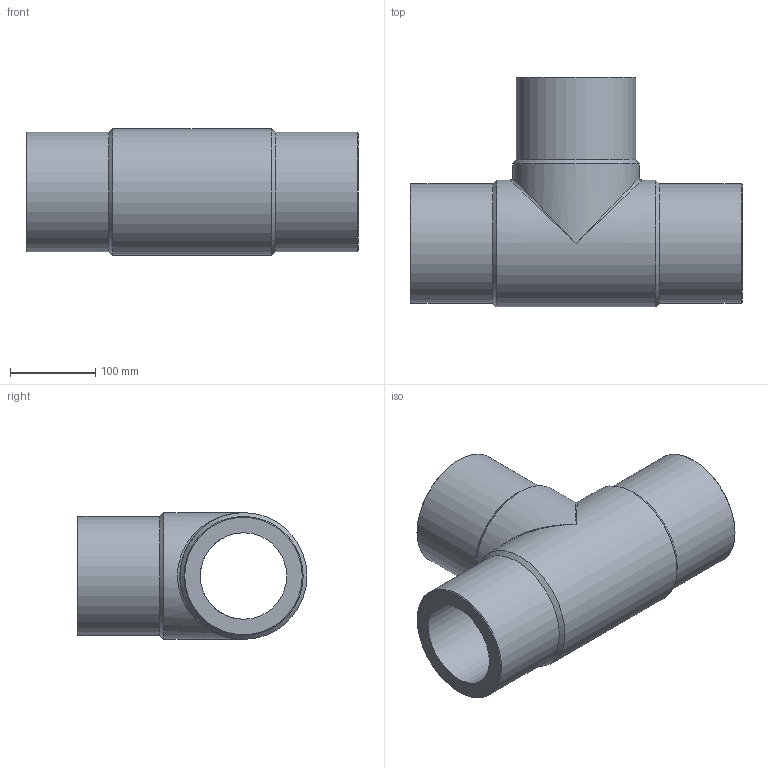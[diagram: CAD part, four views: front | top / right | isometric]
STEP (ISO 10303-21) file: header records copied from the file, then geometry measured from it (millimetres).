
FILE_DESCRIPTION(/* description */ ('Unknown'),/* implementation_level */ '2;1');
FILE_NAME(/* name */ 'TP140H',/* time_stamp */ '2021-08-12T16:41:39+02:00',/* author */ ('Unknown'),/* organization */ ('Unknown'),/* preprocessor_version */ 'ST-DEVELOPER v16.7',/* originating_system */ 'Solid Edge',/* authorisation */ 'Unknown');
FILE_SCHEMA (('AUTOMOTIVE_DESIGN {1 0 10303 214 3 1 1}'));
Length unit declared in the file: millimetre
Products named in the file (1): TP140H
Bounding box: 390 x 270 x 149 mm (x, y, z)
Volume: 4099016.6 mm3; surface area: 410665.7 mm2
Topology: 1 solids, 1 shells, 18 faces, 44 edges, 23 vertices
Faces by surface type: cylinder 7, cone 6, plane 3, bspline 2
Full cylindrical faces by diameter (mm): 101.6 x2, 140 x3, 149 x2
Entity records: 516 total; most frequent: CARTESIAN_POINT 159, DIRECTION 76, ORIENTED_EDGE 42, AXIS2_PLACEMENT_3D 38, EDGE_LOOP 36, FACE_BOUND 36, EDGE_CURVE 21, VERTEX_POINT 19
